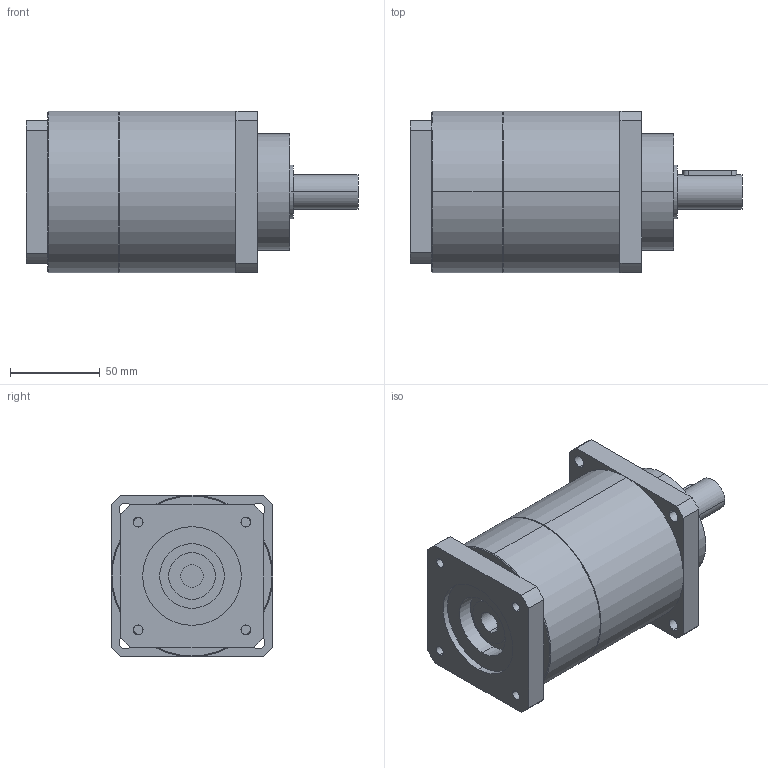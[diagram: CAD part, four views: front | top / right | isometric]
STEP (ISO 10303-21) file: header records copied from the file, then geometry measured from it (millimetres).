
FILE_DESCRIPTION(('CoCreate Modeling STEP Export'),'2;1');
FILE_NAME('GPT90_ig-9-12-16-20-25-28-35-40-50-70-100_19_B5T_12.7_P20.stp','2015-02-04T11:27:46',(''),(''),'CoCreate Modeling STEP processor for AP214 (Solid Model)','CoCreate Modeling 16.00C 25-Feb-2009 (C) Parametric Technology GmbH','');
FILE_SCHEMA(('AUTOMOTIVE_DESIGN { 1 0 10303 214 1 1 1 1 }'));
Length unit declared in the file: millimetre
Products named in the file (2): GPT90_ig-9-12-16-20-25-28-35-40-50-70-100_19_B5T_12.7_P20
Assembly tree (1 placements, depth 2):
  GPT90_ig-9-12-16-20-25-28-35-40-50-70-100_19_B5T_12.7_P20
    GPT90_ig-9-12-16-20-25-28-35-40-50-70-100_19_B5T_12.7_P20
Bounding box: 185 x 90 x 90 mm (x, y, z)
Volume: 889004.1 mm3; surface area: 66180.3 mm2
Topology: 1 solids, 1 shells, 88 faces, 237 edges, 156 vertices
Faces by surface type: cylinder 46, plane 38, cone 4
Entity records: 2783 total; most frequent: CARTESIAN_POINT 766, ORIENTED_EDGE 474, DIRECTION 338, EDGE_CURVE 237, VERTEX_POINT 156, AXIS2_PLACEMENT_3D 125, EDGE_LOOP 109, VECTOR 88
